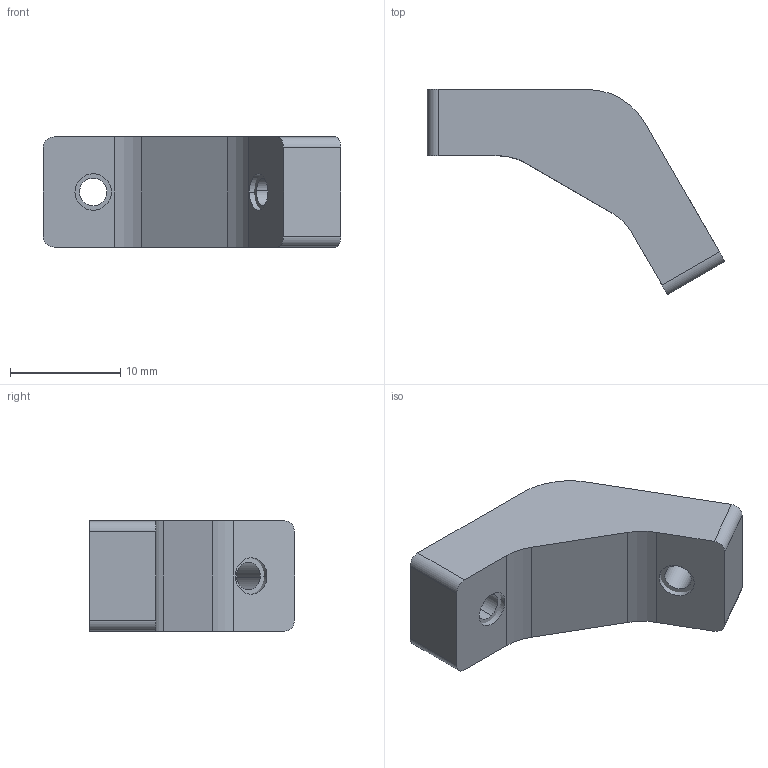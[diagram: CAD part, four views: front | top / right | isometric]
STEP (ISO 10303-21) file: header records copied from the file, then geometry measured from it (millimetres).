
FILE_DESCRIPTION (( 'STEP AP214' ), '1' );
FILE_NAME ('120° Joint.STEP', '2024-06-26T08:01:54', ( '' ), ( '' ), 'SwSTEP 2.0', 'SolidWorks 2023', '' );
FILE_SCHEMA (( 'AUTOMOTIVE_DESIGN' ));
Length unit declared in the file: millimetre
Products named in the file (3): 120° Joint; M3 Insert; 120° Joint PLA
Assembly tree (3 placements, depth 2):
  120° Joint
    120° Joint PLA
    M3 Insert  x2
Bounding box: 27 x 18.6 x 10 mm (x, y, z)
Volume: 2167.6 mm3; surface area: 1690 mm2
Topology: 3 solids, 3 shells, 608 faces, 1510 edges, 908 vertices
Faces by surface type: plane 445, cylinder 163
Entity records: 9292 total; most frequent: DIRECTION 1664, CARTESIAN_POINT 1574, ORIENTED_EDGE 1564, EDGE_CURVE 782, AXIS2_PLACEMENT_3D 562, VECTOR 540, LINE 540, VERTEX_POINT 472
